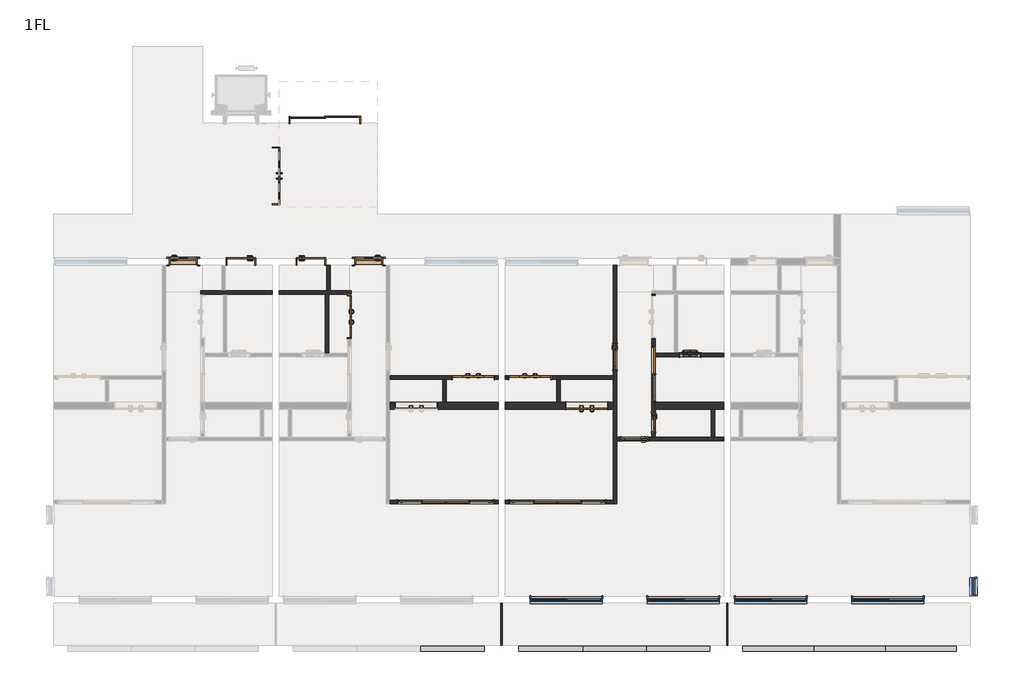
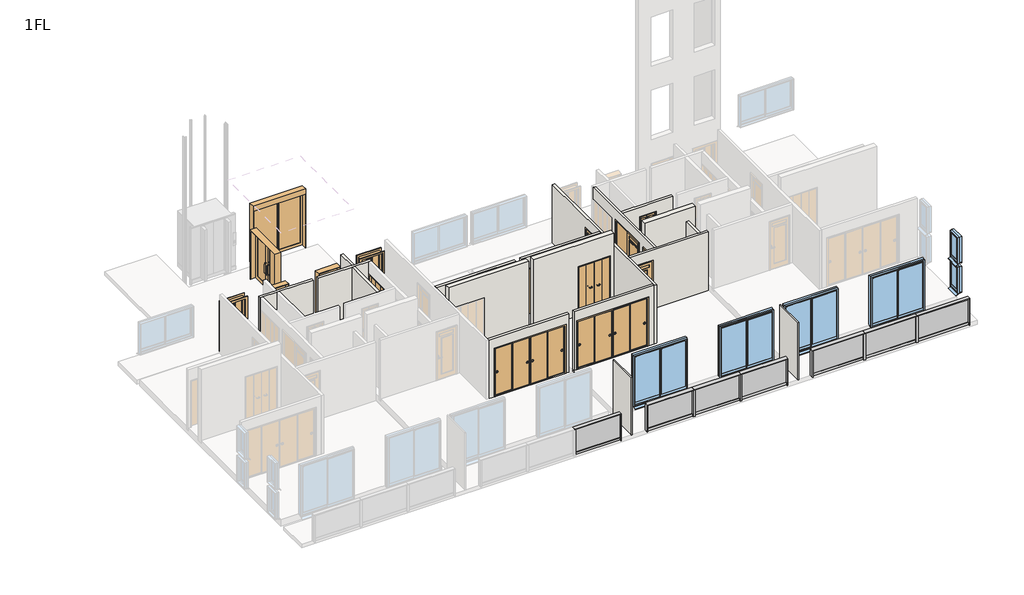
# One storey, part 2 of 3: 20 walls, 17 doors, 16 members, 7 plates, 6 windows.
"""IFC4 building model written with IfcOpenShell, lengths in millimetres."""

from ifc_helpers import new_model, si_unit, frame, origin, place, context, project, spatial, polyline, outline, extrude, faceted_brep, transform, mapped, element, save
from components import door_1200x2000_98cacc9b, door_1200x2000_6a144d60, door_1200x2000_99d19fb3, door_1600x2000_09a7ee27, door_2800x2000_670b855b, door_2800x2000_04aa64cd, door_600x2000_7f2747f4, door_600x2000_6a266bef, door_800x2000_a7d1584b, door_800x2000_13e9f519, door_800x2000_ccb03061, door_800x2000_010bfebf, w1600h2000_3fdee943, w2000h2200_4605e8f1, w800h2000_1d97c4d4, w800h2000_0ab7d42c, member_25x150_3f8205e2, member_25x150_e252ec85, member_25x150_8b8be5b9, member_25x150_69a01d83, member_25x150_4c9d34cf, member_70x150_851c8a9b, plate_5aac5250, plate_977e9fc7, plate_28239825, plate_ce56c4f8, window_2000x2000_f1ff98da, window_450x1000_e0a5e2da, window_450x1000_1cddc73c

model = new_model("IFC4")

# Units and contexts
model_context = context("Model", 3, world=origin())
ifc_project = project(units=[si_unit("LENGTHUNIT", "METRE", prefix="MILLI")], contexts=[model_context])

# Site, building, storey
site = spatial("IfcSite", under=ifc_project)
building = spatial("IfcBuilding", under=site)
storey = spatial("IfcBuildingStorey", under=building, Name="1FL", Elevation=1000.0)

# Doors
placement = place(None, origin())
door_1200x2000_shape = door_1200x2000_98cacc9b(model_context)
element("IfcDoor", 1, ObjectType="木製折戸 : 1200x2000", at=placement, inside=storey, context=model_context, shape_type="MappedRepresentation", body=[
    mapped(door_1200x2000_shape, transform((4158.7812754, -9820.1171638, 1100.0), x_axis=(-1.0, 0.0, 0.0), y_axis=(0.0, -1.0, 0.0), z_axis=(0.0, 0.0, 1.0))),
])
door_1200x2000_2_shape = door_1200x2000_6a144d60(model_context)
element("IfcDoor", 2, ObjectType="木製折戸 : 1200x2000", at=placement, inside=storey, context=model_context, shape_type="MappedRepresentation", body=[
    mapped(door_1200x2000_2_shape, transform((2533.7812754, -9020.1171638, 1000.0), x_axis=(1.0, 0.0, 0.0), y_axis=(0.0, 1.0, 0.0), z_axis=(0.0, 0.0, 1.0))),
])
door_1200x2000_3_shape = door_1200x2000_99d19fb3(model_context)
element("IfcDoor", 3, ObjectType="木製折戸 : 1200x2000", at=placement, inside=storey, context=model_context, shape_type="MappedRepresentation", body=[
    mapped(door_1200x2000_3_shape, transform((-2628.7187246, -7280.1171638, 1000.0), x_axis=(0.0, 1.0, 0.0), y_axis=(-1.0, 0.0, 0.0), z_axis=(0.0, 0.0, 1.0))),
])
element("IfcDoor", 4, ObjectType="木製折戸 : 1200x2000", at=placement, inside=storey, context=model_context, shape_type="MappedRepresentation", body=[
    mapped(door_1200x2000_3_shape, transform((908.7812754, -9020.1171638, 1000.0), x_axis=(-1.0, 0.0, 0.0), y_axis=(0.0, -1.0, 0.0), z_axis=(0.0, 0.0, 1.0))),
])
door_1600x2000_shape = door_1600x2000_09a7ee27(model_context)
element("IfcDoor", 5, ObjectType="片引戸CL2017 : 1600x2000", at=placement, inside=storey, context=model_context, shape_type="MappedRepresentation", body=[
    mapped(door_1600x2000_shape, transform((6071.2812754, -8920.1171638, 1100.0), x_axis=(0.0, -1.0, 0.0), y_axis=(1.0, 0.0, 0.0), z_axis=(0.0, 0.0, 1.0))),
])
door_2800x2000_shape = door_2800x2000_670b855b(model_context)
element("IfcDoor", 6, ObjectType="引違い 4 枚 2 溝_襖 : 2800x2000", at=placement, inside=storey, context=model_context, shape_type="MappedRepresentation", body=[
    mapped(door_2800x2000_shape, transform((3326.8167793, -12570.1171638, 1100.0), x_axis=(1.0, 0.0, 0.0), y_axis=(0.0, 1.0, 0.0), z_axis=(0.0, 0.0, 1.0))),
])
door_2800x2000_2_shape = door_2800x2000_04aa64cd(model_context)
element("IfcDoor", 7, ObjectType="引違い 4 枚 2 溝_襖 : 2800x2000", at=placement, inside=storey, context=model_context, shape_type="MappedRepresentation", body=[
    mapped(door_2800x2000_2_shape, transform((115.7457714, -12570.1171638, 1100.0), x_axis=(-1.0, 0.0, 0.0), y_axis=(0.0, -1.0, 0.0), z_axis=(0.0, 0.0, 1.0))),
])
door_600x2000_shape = door_600x2000_7f2747f4(model_context)
element("IfcDoor", 8, ObjectType="片開き戸CL2058 : 600x2000", at=placement, inside=storey, context=model_context, shape_type="MappedRepresentation", body=[
    mapped(door_600x2000_shape, transform((6071.2812754, -10295.1171638, 1100.0), x_axis=(0.0, -1.0, 0.0), y_axis=(1.0, 0.0, 0.0), z_axis=(0.0, 0.0, 1.0))),
])
door_600x2000_2_shape = door_600x2000_6a266bef(model_context)
element("IfcDoor", 9, ObjectType="浴室折戸 : 600x2000", at=placement, inside=storey, context=model_context, shape_type="MappedRepresentation", body=[
    mapped(door_600x2000_2_shape, transform((7111.2812754, -8370.1171638, 1100.0), x_axis=(1.0, 0.0, 0.0), y_axis=(0.0, 1.0, 0.0), z_axis=(0.0, 0.0, 1.0))),
])
door_800x2000_shape = door_800x2000_a7d1584b(model_context)
element("IfcDoor", 10, ObjectType="片開き3 : 800x2000", at=placement, inside=storey, context=model_context, shape_type="MappedRepresentation", body=[
    mapped(door_800x2000_shape, transform((-7378.7187246, -5700.1171638, 1000.0), x_axis=(1.0, 0.0, 0.0), y_axis=(0.0, 1.0, 0.0), z_axis=(0.0, 0.0, 1.0))),
])
door_800x2000_2_shape = door_800x2000_13e9f519(model_context)
element("IfcDoor", 11, ObjectType="片開き戸CL2058 : 800x2000", at=placement, inside=storey, context=model_context, shape_type="MappedRepresentation", body=[
    mapped(door_800x2000_2_shape, transform((4971.2812754, -8420.1171638, 1100.0), x_axis=(0.0, -1.0, 0.0), y_axis=(1.0, 0.0, 0.0), z_axis=(0.0, 0.0, 1.0))),
])
door_800x2000_3_shape = door_800x2000_ccb03061(model_context)
element("IfcDoor", 12, ObjectType="片開き戸CL2058 : 800x2000", at=placement, inside=storey, context=model_context, shape_type="MappedRepresentation", body=[
    mapped(door_800x2000_3_shape, transform((5521.2812754, -10770.1171638, 1100.0), x_axis=(-1.0, 0.0, 0.0), y_axis=(0.0, -1.0, 0.0), z_axis=(0.0, 0.0, 1.0))),
])
door_800x2000_4_shape = door_800x2000_010bfebf(model_context)
element("IfcDoor", 13, ObjectType="片開き3 : 800x2000", at=placement, inside=storey, context=model_context, shape_type="MappedRepresentation", body=[
    mapped(door_800x2000_4_shape, transform((-2078.7187246, -5700.1171638, 1000.0), x_axis=(-1.0, 0.0, 0.0), y_axis=(0.0, -1.0, 0.0), z_axis=(0.0, 0.0, 1.0))),
])
w1600h2000_shape = w1600h2000_3fdee943(model_context)
element("IfcDoor", 14, ObjectType="両開き_ガラス四方框 : w1600h2000", at=placement, inside=storey, context=model_context, shape_type="MappedRepresentation", body=[
    mapped(w1600h2000_shape, transform((-4728.7187246, -3250.1171638, 1000.0), x_axis=(0.0, -1.0, 0.0), y_axis=(1.0, 0.0, 0.0), z_axis=(0.0, 0.0, 1.0))),
])
w2000h2200_shape = w2000h2200_4605e8f1(model_context)
element("IfcDoor", 15, ObjectType="片引き_自動ドア_ガラス四方框 : w2000h2200", at=placement, inside=storey, context=model_context, shape_type="MappedRepresentation", body=[
    mapped(w2000h2200_shape, transform((-3203.7187246, -1650.1171638, 1000.0), x_axis=(1.0, 0.0, 0.0), y_axis=(0.0, 1.0, 0.0), z_axis=(0.0, 0.0, 1.0))),
])
w800h2000_shape = w800h2000_1d97c4d4(model_context)
element("IfcDoor", 16, ObjectType="片開き : w800h2000", at=placement, inside=storey, context=model_context, shape_type="MappedRepresentation", body=[
    mapped(w800h2000_shape, transform((-5728.7187246, -5700.1171638, 1000.0), x_axis=(-1.0, 0.0, 0.0), y_axis=(0.0, -1.0, 0.0), z_axis=(0.0, 0.0, 1.0))),
])
w800h2000_2_shape = w800h2000_0ab7d42c(model_context)
element("IfcDoor", 17, ObjectType="片開き : w800h2000", at=placement, inside=storey, context=model_context, shape_type="MappedRepresentation", body=[
    mapped(w800h2000_2_shape, transform((-3728.7187246, -5700.1171638, 1000.0), x_axis=(1.0, 0.0, 0.0), y_axis=(0.0, 1.0, 0.0), z_axis=(0.0, 0.0, 1.0))),
])

# Members
member_25x150_shape = member_25x150_3f8205e2(model_context)
element("IfcMember", 18, ObjectType="長方形のマリオン : 25x150", at=placement, inside=storey, context=model_context, shape_type="MappedRepresentation", body=[
    mapped(member_25x150_shape, transform((1221.2812754, -16770.1171638, 1000.0), x_axis=(1.0, 0.0, 0.0), y_axis=(0.0, -1.0, 0.0), z_axis=(0.0, 0.0, -1.0))),
])
element("IfcMember", 19, ObjectType="長方形のマリオン : 25x150", at=placement, inside=storey, context=model_context, shape_type="MappedRepresentation", body=[
    mapped(member_25x150_shape, transform((7671.2812754, -16770.1171638, 1000.0), x_axis=(1.0, 0.0, 0.0), y_axis=(0.0, -1.0, 0.0), z_axis=(0.0, 0.0, -1.0))),
])
element("IfcMember", 20, ObjectType="長方形のマリオン : 25x150", at=placement, inside=storey, context=model_context, shape_type="MappedRepresentation", body=[
    mapped(member_25x150_shape, transform((14721.2812754, -16770.1171638, 1000.0), x_axis=(1.0, 0.0, 0.0), y_axis=(0.0, -1.0, 0.0), z_axis=(0.0, 0.0, -1.0))),
])
element("IfcMember", 21, ObjectType="長方形のマリオン : 25x150", at=placement, inside=storey, context=model_context, shape_type="MappedRepresentation", body=[
    mapped(member_25x150_shape, transform((2221.2812754, -16770.1171638, 2075.0), x_axis=(-1.0, 0.0, 0.0), y_axis=(0.0, -1.0, 0.0), z_axis=(0.0, 0.0, 1.0))),
])
element("IfcMember", 22, ObjectType="長方形のマリオン : 25x150", at=placement, inside=storey, context=model_context, shape_type="MappedRepresentation", body=[
    mapped(member_25x150_shape, transform((8621.2812754, -16770.1171638, 2075.0), x_axis=(-1.0, 0.0, 0.0), y_axis=(0.0, -1.0, 0.0), z_axis=(0.0, 0.0, 1.0))),
])
member_25x150_2_shape = member_25x150_e252ec85(model_context)
element("IfcMember", 23, ObjectType="長方形のマリオン : 25x150", at=placement, inside=storey, context=model_context, shape_type="MappedRepresentation", body=[
    mapped(member_25x150_2_shape, transform((1221.2812754, -16770.1171638, 2100.0), x_axis=(0.0, 0.0, 1.0), y_axis=(0.0, -1.0, 0.0), z_axis=(1.0, 0.0, 0.0))),
])
element("IfcMember", 24, ObjectType="長方形のマリオン : 25x150", at=placement, inside=storey, context=model_context, shape_type="MappedRepresentation", body=[
    mapped(member_25x150_2_shape, transform((7671.2812754, -16770.1171638, 2100.0), x_axis=(0.0, 0.0, 1.0), y_axis=(0.0, -1.0, 0.0), z_axis=(1.0, 0.0, 0.0))),
])
element("IfcMember", 25, ObjectType="長方形のマリオン : 25x150", at=placement, inside=storey, context=model_context, shape_type="MappedRepresentation", body=[
    mapped(member_25x150_2_shape, transform((4037.9479421, -16770.1171638, 2100.0), x_axis=(0.0, 0.0, 1.0), y_axis=(0.0, -1.0, 0.0), z_axis=(1.0, 0.0, 0.0))),
])
member_25x150_3_shape = member_25x150_8b8be5b9(model_context)
element("IfcMember", 26, ObjectType="長方形のマリオン : 25x150", at=placement, inside=storey, context=model_context, shape_type="MappedRepresentation", body=[
    mapped(member_25x150_3_shape, transform((5854.6146086, -16770.1171638, 2100.0), x_axis=(0.0, 0.0, 1.0), y_axis=(0.0, -1.0, 0.0), z_axis=(1.0, 0.0, 0.0))),
])
member_25x150_4_shape = member_25x150_69a01d83(model_context)
element("IfcMember", 27, ObjectType="長方形のマリオン : 25x150", at=placement, inside=storey, context=model_context, shape_type="MappedRepresentation", body=[
    mapped(member_25x150_4_shape, transform((14721.2812754, -16770.1171638, 2100.0), x_axis=(0.0, 0.0, 1.0), y_axis=(0.0, -1.0, 0.0), z_axis=(1.0, 0.0, 0.0))),
])
element("IfcMember", 28, ObjectType="長方形のマリオン : 25x150", at=placement, inside=storey, context=model_context, shape_type="MappedRepresentation", body=[
    mapped(member_25x150_4_shape, transform((10654.6146088, -16770.1171638, 2100.0), x_axis=(0.0, 0.0, 1.0), y_axis=(0.0, -1.0, 0.0), z_axis=(1.0, 0.0, 0.0))),
])
member_25x150_5_shape = member_25x150_4c9d34cf(model_context)
element("IfcMember", 29, ObjectType="長方形のマリオン : 25x150", at=placement, inside=storey, context=model_context, shape_type="MappedRepresentation", body=[
    mapped(member_25x150_5_shape, transform((12687.9479419, -16770.1171638, 2100.0), x_axis=(0.0, 0.0, 1.0), y_axis=(0.0, -1.0, 0.0), z_axis=(1.0, 0.0, 0.0))),
])
member_70x150_shape = member_70x150_851c8a9b(model_context)
element("IfcMember", 30, ObjectType="長方形のマリオン : 70x150", at=placement, inside=storey, context=model_context, shape_type="MappedRepresentation", body=[
    mapped(member_70x150_shape, transform((4037.9479421, -16770.1171638, 1000.0), x_axis=(1.0, 0.0, 0.0), y_axis=(0.0, -1.0, 0.0), z_axis=(0.0, 0.0, -1.0))),
])
element("IfcMember", 31, ObjectType="長方形のマリオン : 70x150", at=placement, inside=storey, context=model_context, shape_type="MappedRepresentation", body=[
    mapped(member_70x150_shape, transform((5854.6146086, -16770.1171638, 1000.0), x_axis=(1.0, 0.0, 0.0), y_axis=(0.0, -1.0, 0.0), z_axis=(0.0, 0.0, -1.0))),
])
element("IfcMember", 32, ObjectType="長方形のマリオン : 70x150", at=placement, inside=storey, context=model_context, shape_type="MappedRepresentation", body=[
    mapped(member_70x150_shape, transform((10654.6146088, -16770.1171638, 1000.0), x_axis=(1.0, 0.0, 0.0), y_axis=(0.0, -1.0, 0.0), z_axis=(0.0, 0.0, -1.0))),
])
element("IfcMember", 33, ObjectType="長方形のマリオン : 70x150", at=placement, inside=storey, context=model_context, shape_type="MappedRepresentation", body=[
    mapped(member_70x150_shape, transform((12687.9479419, -16770.1171638, 1000.0), x_axis=(1.0, 0.0, 0.0), y_axis=(0.0, -1.0, 0.0), z_axis=(0.0, 0.0, -1.0))),
])

# Plates
plate_shape = plate_5aac5250(model_context)
element("IfcPlate", 34, ObjectType="r パネル FIX 下框付 : 框 H100", at=placement, inside=storey, context=model_context, shape_type="MappedRepresentation", body=[
    mapped(plate_shape, transform((317.947942, -16770.1171638, 1000.0), x_axis=(1.0, 0.0, 0.0), y_axis=(0.0, 1.0, 0.0), z_axis=(0.0, 0.0, 1.0))),
])
element("IfcPlate", 35, ObjectType="r パネル FIX 下框付 : 框 H100", at=placement, inside=storey, context=model_context, shape_type="MappedRepresentation", body=[
    mapped(plate_shape, transform((3124.6146087, -16770.1171638, 1000.0), x_axis=(1.0, 0.0, 0.0), y_axis=(0.0, 1.0, 0.0), z_axis=(0.0, 0.0, 1.0))),
])
element("IfcPlate", 36, ObjectType="r パネル FIX 下框付 : 框 H100", at=placement, inside=storey, context=model_context, shape_type="MappedRepresentation", body=[
    mapped(plate_shape, transform((6767.947942, -16770.1171638, 1000.0), x_axis=(1.0, 0.0, 0.0), y_axis=(0.0, 1.0, 0.0), z_axis=(0.0, 0.0, 1.0))),
])
plate_2_shape = plate_977e9fc7(model_context)
element("IfcPlate", 37, ObjectType="r パネル FIX 下框付 : 框 H100", at=placement, inside=storey, context=model_context, shape_type="MappedRepresentation", body=[
    mapped(plate_2_shape, transform((4946.2812754, -16770.1171638, 1000.0), x_axis=(1.0, 0.0, 0.0), y_axis=(0.0, 1.0, 0.0), z_axis=(0.0, 0.0, 1.0))),
])
plate_3_shape = plate_28239825(model_context)
element("IfcPlate", 38, ObjectType="r パネル FIX 下框付 : 框 H100", at=placement, inside=storey, context=model_context, shape_type="MappedRepresentation", body=[
    mapped(plate_3_shape, transform((9632.9479421, -16770.1171638, 1000.0), x_axis=(1.0, 0.0, 0.0), y_axis=(0.0, 1.0, 0.0), z_axis=(0.0, 0.0, 1.0))),
])
element("IfcPlate", 39, ObjectType="r パネル FIX 下框付 : 框 H100", at=placement, inside=storey, context=model_context, shape_type="MappedRepresentation", body=[
    mapped(plate_3_shape, transform((13709.6146086, -16770.1171638, 1000.0), x_axis=(1.0, 0.0, 0.0), y_axis=(0.0, 1.0, 0.0), z_axis=(0.0, 0.0, 1.0))),
])
plate_4_shape = plate_ce56c4f8(model_context)
element("IfcPlate", 40, ObjectType="r パネル FIX 下框付 : 框 H100", at=placement, inside=storey, context=model_context, shape_type="MappedRepresentation", body=[
    mapped(plate_4_shape, transform((11671.2812754, -16770.1171638, 1000.0), x_axis=(1.0, 0.0, 0.0), y_axis=(0.0, 1.0, 0.0), z_axis=(0.0, 0.0, 1.0))),
])

# Walls
element("IfcWall", 41, ObjectType="(R)RC200", at=placement, inside=storey, context=model_context, shape_type="Brep", body=[
    faceted_brep([(1621.2812754, -9720.1171638, 1000.0), (146.2812754, -9720.1171638, 1000.0), (46.2812754, -9720.1171638, 1000.0), (-1478.7187246, -9720.1171638, 1000.0), (-1478.7187246, -9720.1171638, 4000.0), (1621.2812754, -9720.1171638, 4000.0), (-96.2187246, -9720.1171638, 3120.0), (-1336.2187246, -9720.1171638, 3120.0), (-1336.2187246, -9720.1171638, 1100.0), (-96.2187246, -9720.1171638, 1100.0), (1621.2812754, -9920.1171638, 1000.0), (1621.2812754, -9920.1171638, 4000.0), (-1478.7187246, -9920.1171638, 4000.0), (-1478.7187246, -9920.1171638, 1000.0), (-96.2187246, -9920.1171638, 3120.0), (-96.2187246, -9920.1171638, 1100.0), (-1336.2187246, -9920.1171638, 1100.0), (-1336.2187246, -9920.1171638, 3120.0)], [[[0, 1, 2, 3, 4, 5], [6, 7, 8, 9]], [[10, 11, 12, 13], [14, 15, 16, 17]], [[3, 2, 1, 0, 10, 13]], [[5, 4, 12, 11]], [[15, 14, 6, 9]], [[16, 15, 9, 8]], [[17, 16, 8, 7]], [[14, 17, 7, 6]], [[0, 5, 11, 10]], [[4, 3, 13, 12]]]),
])
element("IfcWall", 42, ObjectType="(R)RC200", at=placement, inside=storey, context=model_context, shape_type="Brep", body=[
    faceted_brep([(1821.2812754, -9920.1171638, 1000.0), (4921.2812754, -9920.1171638, 1000.0), (4921.2812754, -9920.1171638, 4000.0), (1821.2812754, -9920.1171638, 4000.0), (3538.7812754, -9920.1171638, 3120.0), (4778.7812754, -9920.1171638, 3120.0), (4778.7812754, -9920.1171638, 1100.0), (3538.7812754, -9920.1171638, 1100.0), (1821.2812754, -9720.1171638, 1000.0), (1821.2812754, -9720.1171638, 4000.0), (4921.2812754, -9720.1171638, 4000.0), (4921.2812754, -9720.1171638, 1000.0), (3396.2812754, -9720.1171638, 1000.0), (3296.2812754, -9720.1171638, 1000.0), (3538.7812754, -9720.1171638, 3120.0), (3538.7812754, -9720.1171638, 1100.0), (4778.7812754, -9720.1171638, 1100.0), (4778.7812754, -9720.1171638, 3120.0)], [[[0, 1, 2, 3], [4, 5, 6, 7]], [[8, 9, 10, 11, 12, 13], [14, 15, 16, 17]], [[1, 0, 8, 13, 12, 11]], [[3, 2, 10, 9]], [[15, 14, 4, 7]], [[16, 15, 7, 6]], [[17, 16, 6, 5]], [[14, 17, 5, 4]], [[0, 3, 9, 8]], [[2, 1, 11, 10]]]),
])
element("IfcWall", 43, ObjectType="(R)RC200", at=placement, inside=storey, context=model_context, shape_type="Brep", body=[
    faceted_brep([(6121.2812754, -9920.1171638, 1000.0), (7721.2812754, -9920.1171638, 1000.0), (7821.2812754, -9920.1171638, 1000.0), (8071.2812754, -9920.1171638, 1000.0), (8071.2812754, -9920.1171638, 4000.0), (6121.2812754, -9920.1171638, 4000.0), (6121.2812754, -9720.1171638, 1000.0), (6121.2812754, -9720.1171638, 1100.0), (6121.2812754, -9720.1171638, 3100.0), (6121.2812754, -9720.1171638, 4000.0), (8071.2812754, -9720.1171638, 4000.0), (8071.2812754, -9720.1171638, 1000.0)], [[[0, 1, 2, 3, 4, 5]], [[6, 7, 8, 9, 10, 11]], [[3, 2, 1, 0, 6, 11]], [[5, 4, 10, 9]], [[4, 3, 11, 10]], [[0, 5, 9, 8, 7, 6]]]),
])
element("IfcWall", 44, ObjectType="(F)30", at=placement, inside=storey, context=model_context, shape_type="SweptSolid", body=[
    extrude(outline(polyline([(1706.2812754, -16670.1171638), (1706.2812754, -15470.1171638), (1736.2812754, -15470.1171638), (1736.2812754, -16670.1171638), (1706.2812754, -16670.1171638)])), frame((0.0, 0.0, 950.0), z_axis=(0.0, 0.0, 1.0), x_axis=(1.0, 0.0, 0.0)), (0.0, 0.0, 1.0), 2350.0),
])
element("IfcWall", 45, ObjectType="(F)30", at=placement, inside=storey, context=model_context, shape_type="SweptSolid", body=[
    extrude(outline(polyline([(8156.2812754, -16670.1171638), (8156.2812754, -15470.1171638), (8186.2812754, -15470.1171638), (8186.2812754, -16670.1171638), (8156.2812754, -16670.1171638)])), frame((0.0, 0.0, 950.0), z_axis=(0.0, 0.0, 1.0), x_axis=(1.0, 0.0, 0.0)), (0.0, 0.0, 1.0), 2350.0),
])
element("IfcWall", 46, ObjectType="(L1)LGS100", at=placement, inside=storey, context=model_context, shape_type="Brep", body=[
    faceted_brep([(-6878.7187246, -6630.1171638, 1000.0), (-6778.7187246, -6630.1171638, 1000.0), (-6238.7187246, -6630.1171638, 1000.0), (-6138.7187246, -6630.1171638, 1000.0), (-4828.7187246, -6630.1171638, 1000.0), (-4828.7187246, -6630.1171638, 3500.0), (-6138.7187246, -6630.1171638, 3500.0), (-6238.7187246, -6630.1171638, 3500.0), (-6778.7187246, -6630.1171638, 3500.0), (-6878.7187246, -6630.1171638, 3500.0), (-6878.7187246, -6530.1171638, 1000.0), (-6878.7187246, -6530.1171638, 3500.0), (-6278.7187246, -6530.1171638, 3500.0), (-6178.7187246, -6530.1171638, 3500.0), (-4828.7187246, -6530.1171638, 3500.0), (-4828.7187246, -6530.1171638, 1000.0), (-6178.7187246, -6530.1171638, 1000.0), (-6278.7187246, -6530.1171638, 1000.0)], [[[0, 1, 2, 3, 4, 5, 6, 7, 8, 9]], [[10, 11, 12, 13, 14, 15, 16, 17]], [[4, 3, 2, 1, 0, 10, 17, 16, 15]], [[9, 8, 7, 6, 5, 14, 13, 12, 11]], [[5, 4, 15, 14]], [[0, 9, 11, 10]]]),
])
element("IfcWall", 47, ObjectType="(L1)LGS100", at=placement, inside=storey, context=model_context, shape_type="Brep", body=[
    faceted_brep([(-2578.7187246, -6530.1171638, 1000.0), (-3178.7187246, -6530.1171638, 1000.0), (-3278.7187246, -6530.1171638, 1000.0), (-4628.7187246, -6530.1171638, 1000.0), (-4628.7187246, -6530.1171638, 3500.0), (-3278.7187246, -6530.1171638, 3500.0), (-3178.7187246, -6530.1171638, 3500.0), (-2578.7187246, -6530.1171638, 3500.0), (-2578.7187246, -6630.1171638, 1000.0), (-2578.7187246, -6630.1171638, 3500.0), (-2678.7187246, -6630.1171638, 3500.0), (-3218.7187246, -6630.1171638, 3500.0), (-3318.7187246, -6630.1171638, 3500.0), (-4628.7187246, -6630.1171638, 3500.0), (-4628.7187246, -6630.1171638, 1000.0), (-3318.7187246, -6630.1171638, 1000.0), (-3218.7187246, -6630.1171638, 1000.0), (-2678.7187246, -6630.1171638, 1000.0)], [[[0, 1, 2, 3, 4, 5, 6, 7]], [[8, 9, 10, 11, 12, 13, 14, 15, 16, 17]], [[3, 2, 1, 0, 8, 17, 16, 15, 14]], [[7, 6, 5, 4, 13, 12, 11, 10, 9]], [[0, 7, 9, 8]], [[4, 3, 14, 13]]]),
])
element("IfcWall", 48, ObjectType="(L1)LGS100", at=placement, inside=storey, context=model_context, shape_type="SweptSolid", body=[
    extrude(outline(polyline([(-3178.7187246, -5800.1171638), (-3178.7187246, -6530.1171638), (-3278.7187246, -6530.1171638), (-3278.7187246, -5800.1171638), (-3178.7187246, -5800.1171638)])), frame((0.0, 0.0, 1000.0), z_axis=(0.0, 0.0, 1.0), x_axis=(1.0, 0.0, 0.0)), (0.0, 0.0, 1.0), 2500.0),
])
element("IfcWall", 49, ObjectType="(L1)LGS100", at=placement, inside=storey, context=model_context, shape_type="SweptSolid", body=[
    extrude(outline(polyline([(-3218.7187246, -6630.1171638), (-3218.7187246, -8320.1171638), (-3318.7187246, -8320.1171638), (-3318.7187246, -6630.1171638), (-3218.7187246, -6630.1171638)])), frame((0.0, 0.0, 1000.0), z_axis=(0.0, 0.0, 1.0), x_axis=(1.0, 0.0, 0.0)), (0.0, 0.0, 1.0), 2500.0),
])
element("IfcWall", 50, ObjectType="(L1)LGS100", at=placement, inside=storey, context=model_context, shape_type="Brep", body=[
    faceted_brep([(1621.2812754, -8970.1171638, 1000.0), (1528.7812754, -8970.1171638, 1000.0), (1528.7812754, -8970.1171638, 3020.0), (288.7812754, -8970.1171638, 3020.0), (288.7812754, -8970.1171638, 1000.0), (-1478.7187246, -8970.1171638, 1000.0), (-1478.7187246, -8970.1171638, 3500.0), (1621.2812754, -8970.1171638, 3500.0), (1528.7812754, -9070.1171638, 3020.0), (1528.7812754, -9070.1171638, 1000.0), (1621.2812754, -9070.1171638, 1000.0), (1621.2812754, -9070.1171638, 3500.0), (146.2812754, -9070.1171638, 3500.0), (46.2812754, -9070.1171638, 3500.0), (-1478.7187246, -9070.1171638, 3500.0), (-1478.7187246, -9070.1171638, 1000.0), (46.2812754, -9070.1171638, 1000.0), (146.2812754, -9070.1171638, 1000.0), (288.7812754, -9070.1171638, 1000.0), (288.7812754, -9070.1171638, 3020.0)], [[[0, 1, 2, 3, 4, 5, 6, 7]], [[8, 9, 10, 11, 12, 13, 14, 15, 16, 17, 18, 19]], [[10, 9, 1, 0]], [[18, 17, 16, 15, 5, 4]], [[7, 6, 14, 13, 12, 11]], [[4, 3, 19, 18]], [[2, 1, 9, 8]], [[3, 2, 8, 19]], [[0, 7, 11, 10]], [[6, 5, 15, 14]]]),
])
element("IfcWall", 51, ObjectType="(L1)LGS100", at=placement, inside=storey, context=model_context, shape_type="SweptSolid", body=[
    extrude(outline(polyline([(146.2812754, -9070.1171638), (146.2812754, -9720.1171638), (46.2812754, -9720.1171638), (46.2812754, -9070.1171638), (146.2812754, -9070.1171638)])), frame((0.0, 0.0, 1000.0), z_axis=(0.0, 0.0, 1.0), x_axis=(1.0, 0.0, 0.0)), (0.0, 0.0, 1.0), 2500.0),
])
element("IfcWall", 52, ObjectType="(L1)LGS100", at=placement, inside=storey, context=model_context, shape_type="SweptSolid", body=[
    extrude(outline(polyline([(1000.0, 1621.2812754), (3500.0, 1621.2812754), (3500.0, -1478.7187246), (1000.0, -1478.7187246), (1000.0, 1621.2812754)]), holes=[polyline([(3100.0, -1278.7187246), (3100.0, 1521.2812754), (1100.0, 1521.2812754), (1100.0, -1278.7187246), (3100.0, -1278.7187246)])]), frame((0.0, -12620.1171638, 0.0), z_axis=(0.0, 1.0, 0.0), x_axis=(0.0, 0.0, 1.0)), (0.0, 0.0, 1.0), 100.0),
])
element("IfcWall", 53, ObjectType="(L1)LGS100", at=placement, inside=storey, context=model_context, shape_type="Brep", body=[
    faceted_brep([(5021.2812754, -12620.1171638, 1000.0), (5021.2812754, -10820.1171638, 1000.0), (5021.2812754, -10720.1171638, 1000.0), (5021.2812754, -5800.1171638, 1000.0), (5021.2812754, -5800.1171638, 3500.0), (5021.2812754, -10720.1171638, 3500.0), (5021.2812754, -10820.1171638, 3500.0), (5021.2812754, -12620.1171638, 3500.0), (5021.2812754, -8820.1171638, 1100.0), (5021.2812754, -8820.1171638, 3100.0), (5021.2812754, -8020.1171638, 3100.0), (5021.2812754, -8020.1171638, 1100.0), (4921.2812754, -12620.1171638, 1000.0), (4921.2812754, -12620.1171638, 3500.0), (4921.2812754, -12520.1171638, 3500.0), (4921.2812754, -9070.1171638, 3500.0), (4921.2812754, -8970.1171638, 3500.0), (4921.2812754, -5800.1171638, 3500.0), (4921.2812754, -5800.1171638, 1000.0), (4921.2812754, -8970.1171638, 1000.0), (4921.2812754, -9070.1171638, 1000.0), (4921.2812754, -9720.1171638, 1000.0), (4921.2812754, -9920.1171638, 1000.0), (4921.2812754, -12520.1171638, 1000.0), (4921.2812754, -8820.1171638, 1100.0), (4921.2812754, -8020.1171638, 1100.0), (4921.2812754, -8020.1171638, 3100.0), (4921.2812754, -8820.1171638, 3100.0)], [[[0, 1, 2, 3, 4, 5, 6, 7], [8, 9, 10, 11]], [[12, 13, 14, 15, 16, 17, 18, 19, 20, 21, 22, 23], [24, 25, 26, 27]], [[3, 2, 1, 0, 12, 23, 22, 21, 20, 19, 18]], [[7, 6, 5, 4, 17, 16, 15, 14, 13]], [[9, 8, 24, 27]], [[10, 9, 27, 26]], [[11, 10, 26, 25]], [[8, 11, 25, 24]], [[0, 7, 13, 12]], [[4, 3, 18, 17]]]),
])
element("IfcWall", 54, ObjectType="(L1)LGS100", at=placement, inside=storey, context=model_context, shape_type="Brep", body=[
    faceted_brep([(6121.2812754, -6630.1171638, 3500.0), (6121.2812754, -8320.1171638, 3500.0), (6121.2812754, -8420.1171638, 3500.0), (6121.2812754, -10720.1171638, 3500.0), (6121.2812754, -10720.1171638, 1000.0), (6121.2812754, -9920.1171638, 1000.0), (6121.2812754, -9720.1171638, 1000.0), (6121.2812754, -8420.1171638, 1000.0), (6121.2812754, -8320.1171638, 1000.0), (6121.2812754, -7900.1171638, 1000.0), (6121.2812754, -7900.1171638, 3020.0), (6121.2812754, -6660.1171638, 3020.0), (6121.2812754, -6660.1171638, 1000.0), (6121.2812754, -6630.1171638, 1000.0), (6121.2812754, -10595.1171638, 1100.0), (6121.2812754, -10595.1171638, 3100.0), (6121.2812754, -9995.1171638, 3100.0), (6121.2812754, -9995.1171638, 1100.0), (6121.2812754, -9720.1171638, 1100.0), (6121.2812754, -9720.1171638, 3100.0), (6121.2812754, -8120.1171638, 3100.0), (6121.2812754, -8120.1171638, 1100.0), (6021.2812754, -10720.1171638, 3500.0), (6021.2812754, -6630.1171638, 3500.0), (6021.2812754, -6630.1171638, 1000.0), (6021.2812754, -6660.1171638, 1000.0), (6021.2812754, -6660.1171638, 3020.0), (6021.2812754, -7900.1171638, 3020.0), (6021.2812754, -7900.1171638, 1000.0), (6021.2812754, -10720.1171638, 1000.0), (6021.2812754, -10595.1171638, 1100.0), (6021.2812754, -9995.1171638, 1100.0), (6021.2812754, -9995.1171638, 3100.0), (6021.2812754, -10595.1171638, 3100.0), (6021.2812754, -9720.1171638, 3100.0), (6021.2812754, -9720.1171638, 1100.0), (6021.2812754, -8120.1171638, 1100.0), (6021.2812754, -8120.1171638, 3100.0)], [[[0, 1, 2, 3, 4, 5, 6, 7, 8, 9, 10, 11, 12, 13], [14, 15, 16, 17], [18, 19, 20, 21]], [[22, 23, 24, 25, 26, 27, 28, 29], [30, 31, 32, 33], [34, 35, 36, 37]], [[12, 25, 24, 13]], [[28, 9, 8, 7, 6, 5, 4, 29]], [[3, 2, 1, 0, 23, 22]], [[15, 14, 30, 33]], [[16, 15, 33, 32]], [[17, 16, 32, 31]], [[14, 17, 31, 30]], [[18, 35, 34, 19]], [[19, 34, 37, 20]], [[20, 37, 36, 21]], [[35, 18, 21, 36]], [[12, 11, 26, 25]], [[10, 9, 28, 27]], [[11, 10, 27, 26]], [[4, 3, 22, 29]], [[0, 13, 24, 23]]]),
])
element("IfcWall", 55, ObjectType="(L1)LGS100", at=placement, inside=storey, context=model_context, shape_type="Brep", body=[
    faceted_brep([(6121.2812754, -8420.1171638, 1000.0), (8071.2812754, -8420.1171638, 1000.0), (8071.2812754, -8420.1171638, 3500.0), (6121.2812754, -8420.1171638, 3500.0), (7431.2812754, -8420.1171638, 3120.0), (7431.2812754, -8420.1171638, 1100.0), (6791.2812754, -8420.1171638, 1100.0), (6791.2812754, -8420.1171638, 3120.0), (6121.2812754, -8320.1171638, 1000.0), (6121.2812754, -8320.1171638, 3500.0), (6661.2812754, -8320.1171638, 3500.0), (6761.2812754, -8320.1171638, 3500.0), (8071.2812754, -8320.1171638, 3500.0), (8071.2812754, -8320.1171638, 1000.0), (6761.2812754, -8320.1171638, 1000.0), (6661.2812754, -8320.1171638, 1000.0), (7431.2812754, -8320.1171638, 3120.0), (6791.2812754, -8320.1171638, 3120.0), (6791.2812754, -8320.1171638, 1100.0), (7431.2812754, -8320.1171638, 1100.0)], [[[0, 1, 2, 3], [4, 5, 6, 7]], [[8, 9, 10, 11, 12, 13, 14, 15], [16, 17, 18, 19]], [[1, 0, 8, 15, 14, 13]], [[3, 2, 12, 11, 10, 9]], [[5, 4, 16, 19]], [[6, 5, 19, 18]], [[7, 6, 18, 17]], [[4, 7, 17, 16]], [[2, 1, 13, 12]], [[0, 3, 9, 8]]]),
])
element("IfcWall", 56, ObjectType="(L1)LGS100", at=placement, inside=storey, context=model_context, shape_type="Brep", body=[
    faceted_brep([(5021.2812754, -10820.1171638, 1000.0), (8071.2812754, -10820.1171638, 1000.0), (8071.2812754, -10820.1171638, 3500.0), (5021.2812754, -10820.1171638, 3500.0), (5121.2812754, -10820.1171638, 1100.0), (5121.2812754, -10820.1171638, 3100.0), (5921.2812754, -10820.1171638, 3100.0), (5921.2812754, -10820.1171638, 1100.0), (5021.2812754, -10720.1171638, 1000.0), (5021.2812754, -10720.1171638, 3500.0), (6021.2812754, -10720.1171638, 3500.0), (6121.2812754, -10720.1171638, 3500.0), (7721.2812754, -10720.1171638, 3500.0), (7821.2812754, -10720.1171638, 3500.0), (8071.2812754, -10720.1171638, 3500.0), (8071.2812754, -10720.1171638, 1000.0), (7821.2812754, -10720.1171638, 1000.0), (7721.2812754, -10720.1171638, 1000.0), (6121.2812754, -10720.1171638, 1000.0), (6021.2812754, -10720.1171638, 1000.0), (5121.2812754, -10720.1171638, 1100.0), (5921.2812754, -10720.1171638, 1100.0), (5921.2812754, -10720.1171638, 3100.0), (5121.2812754, -10720.1171638, 3100.0)], [[[0, 1, 2, 3], [4, 5, 6, 7]], [[8, 9, 10, 11, 12, 13, 14, 15, 16, 17, 18, 19], [20, 21, 22, 23]], [[1, 0, 8, 19, 18, 17, 16, 15]], [[3, 2, 14, 13, 12, 11, 10, 9]], [[5, 4, 20, 23]], [[6, 5, 23, 22]], [[7, 6, 22, 21]], [[4, 7, 21, 20]], [[2, 1, 15, 14]], [[0, 3, 9, 8]]]),
])
element("IfcWall", 57, ObjectType="(L1)LGS100", at=placement, inside=storey, context=model_context, shape_type="SweptSolid", body=[
    extrude(outline(polyline([(7821.2812754, -9920.1171638), (7821.2812754, -10720.1171638), (7721.2812754, -10720.1171638), (7721.2812754, -9920.1171638), (7821.2812754, -9920.1171638)])), frame((0.0, 0.0, 1000.0), z_axis=(0.0, 0.0, 1.0), x_axis=(1.0, 0.0, 0.0)), (0.0, 0.0, 1.0), 2500.0),
])
element("IfcWall", 58, ObjectType="(L1)LGS100", at=placement, inside=storey, context=model_context, shape_type="Brep", body=[
    faceted_brep([(1821.2812754, -9070.1171638, 1000.0), (1913.7812754, -9070.1171638, 1000.0), (1913.7812754, -9070.1171638, 3020.0), (3153.7812754, -9070.1171638, 3020.0), (3153.7812754, -9070.1171638, 1000.0), (3296.2812754, -9070.1171638, 1000.0), (3396.2812754, -9070.1171638, 1000.0), (4921.2812754, -9070.1171638, 1000.0), (4921.2812754, -9070.1171638, 3500.0), (3396.2812754, -9070.1171638, 3500.0), (3296.2812754, -9070.1171638, 3500.0), (1821.2812754, -9070.1171638, 3500.0), (1913.7812754, -8970.1171638, 3020.0), (1913.7812754, -8970.1171638, 1000.0), (1821.2812754, -8970.1171638, 1000.0), (1821.2812754, -8970.1171638, 3500.0), (4921.2812754, -8970.1171638, 3500.0), (4921.2812754, -8970.1171638, 1000.0), (3153.7812754, -8970.1171638, 1000.0), (3153.7812754, -8970.1171638, 3020.0)], [[[0, 1, 2, 3, 4, 5, 6, 7, 8, 9, 10, 11]], [[12, 13, 14, 15, 16, 17, 18, 19]], [[18, 17, 7, 6, 5, 4]], [[14, 13, 1, 0]], [[11, 10, 9, 8, 16, 15]], [[4, 3, 19, 18]], [[2, 1, 13, 12]], [[3, 2, 12, 19]], [[0, 11, 15, 14]], [[8, 7, 17, 16]]]),
])
element("IfcWall", 59, ObjectType="(L1)LGS100", at=placement, inside=storey, context=model_context, shape_type="SweptSolid", body=[
    extrude(outline(polyline([(3396.2812754, -9070.1171638), (3396.2812754, -9720.1171638), (3296.2812754, -9720.1171638), (3296.2812754, -9070.1171638), (3396.2812754, -9070.1171638)])), frame((0.0, 0.0, 1000.0), z_axis=(0.0, 0.0, 1.0), x_axis=(1.0, 0.0, 0.0)), (0.0, 0.0, 1.0), 2500.0),
])
element("IfcWall", 60, ObjectType="(L1)LGS100", at=placement, inside=storey, context=model_context, shape_type="SweptSolid", body=[
    extrude(outline(polyline([(1000.0, 1821.2812754), (1000.0, 4921.2812754), (3500.0, 4921.2812754), (3500.0, 1821.2812754), (1000.0, 1821.2812754)]), holes=[polyline([(3100.0, 4721.2812754), (1100.0, 4721.2812754), (1100.0, 1921.2812754), (3100.0, 1921.2812754), (3100.0, 4721.2812754)])]), frame((0.0, -12620.1171638, 0.0), z_axis=(0.0, 1.0, 0.0), x_axis=(0.0, 0.0, 1.0)), (0.0, 0.0, 1.0), 100.0),
])

# Windows
window_2000x2000_shape = window_2000x2000_f1ff98da(model_context)
element("IfcWindow", 61, ObjectType="鋼製_一般枠_引違い-二枚 : 2000x2000", at=placement, inside=storey, context=model_context, shape_type="MappedRepresentation", body=[
    mapped(window_2000x2000_shape, transform((3571.2812754, -15370.1171638, 200.0), x_axis=(-1.0, 0.0, 0.0), y_axis=(0.0, -1.0, 0.0), z_axis=(0.0, 0.0, 1.0))),
])
element("IfcWindow", 62, ObjectType="鋼製_一般枠_引違い-二枚 : 2000x2000", at=placement, inside=storey, context=model_context, shape_type="MappedRepresentation", body=[
    mapped(window_2000x2000_shape, transform((6921.2812754, -15370.1171638, 200.0), x_axis=(-1.0, 0.0, 0.0), y_axis=(0.0, -1.0, 0.0), z_axis=(0.0, 0.0, 1.0))),
])
element("IfcWindow", 63, ObjectType="鋼製_一般枠_引違い-二枚 : 2000x2000", at=placement, inside=storey, context=model_context, shape_type="MappedRepresentation", body=[
    mapped(window_2000x2000_shape, transform((12771.2812754, -15370.1171638, 200.0), x_axis=(-1.0, 0.0, 0.0), y_axis=(0.0, -1.0, 0.0), z_axis=(0.0, 0.0, 1.0))),
])
element("IfcWindow", 64, ObjectType="鋼製_一般枠_引違い-二枚 : 2000x2000", at=placement, inside=storey, context=model_context, shape_type="MappedRepresentation", body=[
    mapped(window_2000x2000_shape, transform((9421.2812754, -15370.1171638, 200.0), x_axis=(-1.0, 0.0, 0.0), y_axis=(0.0, -1.0, 0.0), z_axis=(0.0, 0.0, 1.0))),
])
window_450x1000_shape = window_450x1000_e0a5e2da(model_context)
element("IfcWindow", 65, ObjectType="鋼製_一般枠_嵌殺し : 450x1000", at=placement, inside=storey, context=model_context, shape_type="MappedRepresentation", body=[
    mapped(window_450x1000_shape, transform((15221.2812754, -14995.1171638, 1230.0), x_axis=(0.0, 1.0, 0.0), y_axis=(-1.0, 0.0, 0.0), z_axis=(0.0, 0.0, 1.0))),
])
window_450x1000_2_shape = window_450x1000_1cddc73c(model_context)
element("IfcWindow", 66, ObjectType="鋼製_一般枠_嵌殺し : 450x1000", at=placement, inside=storey, context=model_context, shape_type="MappedRepresentation", body=[
    mapped(window_450x1000_2_shape, transform((15221.2812754, -14995.1171638, 10.0), x_axis=(0.0, -1.0, 0.0), y_axis=(1.0, 0.0, 0.0), z_axis=(0.0, 0.0, 1.0))),
])

save(model, "model.ifc")
